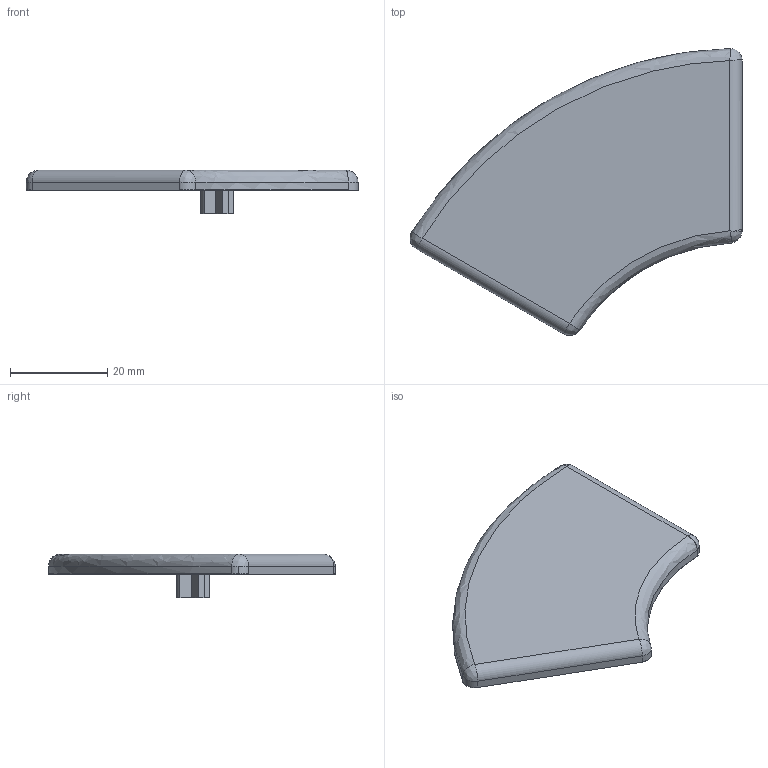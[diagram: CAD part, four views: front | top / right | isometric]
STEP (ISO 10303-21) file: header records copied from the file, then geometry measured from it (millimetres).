
FILE_DESCRIPTION (( 'STEP AP203' ), '1' );
FILE_NAME ('421045_Abdeckkappe 8 R40-80 - 60°.step', '2022-06-24T07:26:27', ( '' ), ( '' ), 'SwSTEP 2.0', 'SolidWorks 2021', '' );
FILE_SCHEMA (( 'CONFIG_CONTROL_DESIGN' ));
Length unit declared in the file: millimetre
Products named in the file (1): 421045_Abdeckkappe 8 R40-80 - 60°
Bounding box: 68.33 x 59.08 x 9 mm (x, y, z)
Surface area: 5783.3 mm2 (no closed solid volume)
Topology: 0 solids, 2 shells, 59 faces, 153 edges, 95 vertices
Faces by surface type: plane 27, cylinder 25, bspline 7
Entity records: 2174 total; most frequent: CARTESIAN_POINT 737, ORIENTED_EDGE 296, DIRECTION 263, EDGE_CURVE 149, VERTEX_POINT 95, AXIS2_PLACEMENT_3D 88, VECTOR 87, LINE 87
